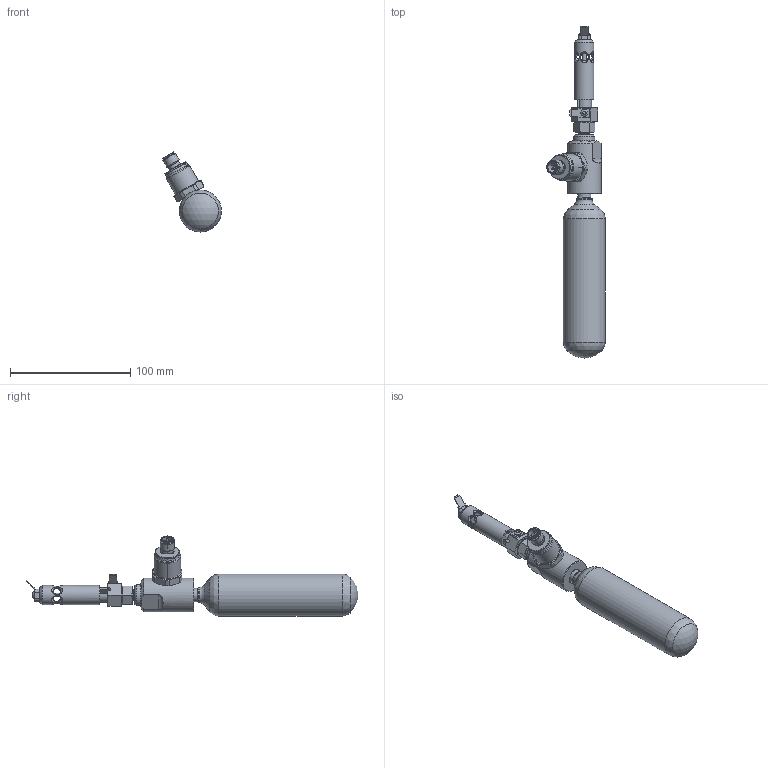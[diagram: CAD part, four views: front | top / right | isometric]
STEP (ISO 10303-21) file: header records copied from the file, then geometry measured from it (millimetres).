
FILE_DESCRIPTION(/* description */ (''),/* implementation_level */ '2;1');
FILE_NAME(/* name */ '40-057-20-32-01 - S-AMFE & R-AMFE - cylinder size 1 and pressure sensor (M12 plug).stp',/* time_stamp */ '2025-03-26T16:21:19+01:00',/* author */ ('ASc'),/* organization */ (''),/* preprocessor_version */ 'ST-DEVELOPER v19.2',/* originating_system */ 'Autodesk Inventor 2023',/* authorisation */ '');
FILE_SCHEMA (('AUTOMOTIVE_DESIGN { 1 0 10303 214 3 1 1 }'));
Length unit declared in the file: millimetre
Products named in the file (1): 40-057-20-32-01_Vereinfachen_1
Bounding box: 48.92 x 276.55 x 66.67 mm (x, y, z)
Volume: 170170.4 mm3; surface area: 30083.4 mm2
Topology: 1 solids, 1 shells, 375 faces, 974 edges, 612 vertices
Faces by surface type: bspline 167, plane 142, cylinder 32, cone 30, torus 3, sphere 1
Full cylindrical faces by diameter (mm): 2.9 x1, 5.7 x2, 6.5 x6, 9.4 x1, 11 x1, 11.9 x1, 12 x1, 12.5 x1, 13 x1, 15 x1, 16 x1, 17.5 x1, 28 x1, 35 x1
Entity records: 19817 total; most frequent: CARTESIAN_POINT 10965, ORIENTED_EDGE 1946, DIRECTION 1397, EDGE_CURVE 973, VERTEX_POINT 612, AXIS2_PLACEMENT_3D 502, EDGE_LOOP 405, LINE 393
